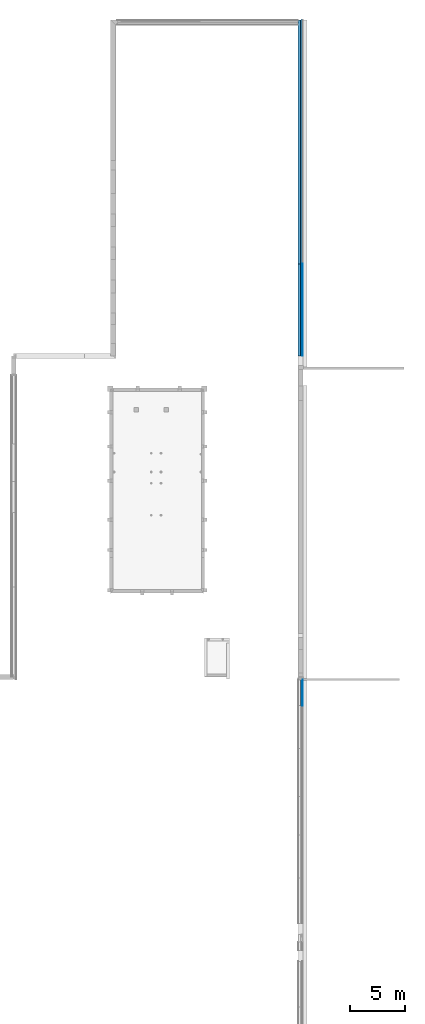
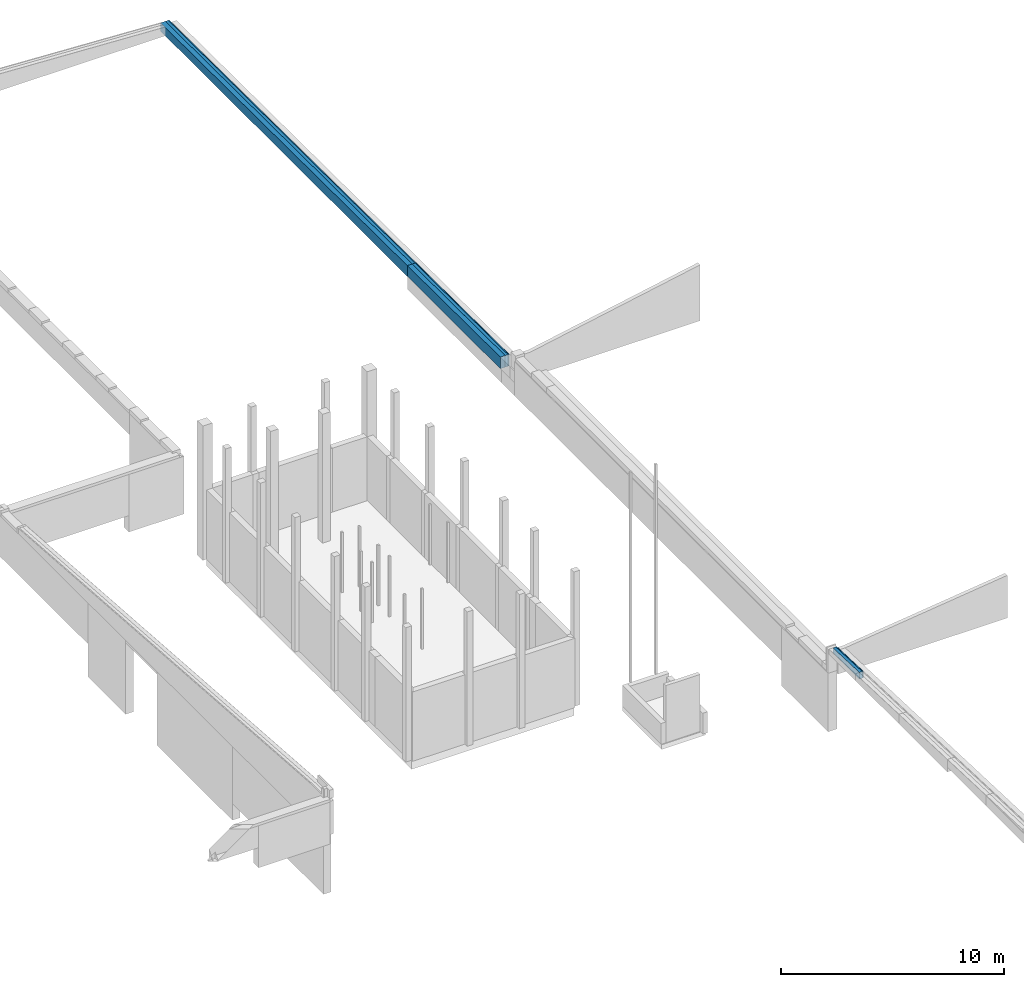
# One storey, part 15 of 17: 10 building element parts, 3 elements without a shape of their own.
"""IFC2X3 building model written with IfcOpenShell, lengths in millimetres."""

import ifcopenshell
import ifcopenshell.guid

model = None  # the IFC model being written
_history = None  # IfcOwnerHistory: only IFC2X3 demands one
_inside = {}  # id of a spatial element -> (the spatial element, [elements in it])
_under = {}  # id of a project, library or spatial element -> (it, [spatial elements below it])
_declared = {}  # id of a project -> (the project, [libraries it declares])
_typed = {}  # id of a type object -> (the type object, [elements of that type])
_made_of = {}  # id of a material, layer set ... -> (it, [elements and type objects made of it])


def new_model(schema):
    """Start an empty IFC model of exactly this schema.

    Asked for "IFC4X3", IfcOpenShell would pick the latest addendum, in which some entities
    have other attributes; the version numbers below select the first issue.
    IFC2X3 requires an IfcOwnerHistory on every rooted entity: one is made here for all.
    """
    global model, _history
    if schema == "IFC4X3":
        model = ifcopenshell.file(schema_version=(4, 3, 0, 0))
    else:
        model = ifcopenshell.file(schema=schema)
    _inside.clear()
    _under.clear()
    _declared.clear()
    _typed.clear()
    _made_of.clear()
    _history = None
    if model.schema == "IFC2X3":
        org = make("IfcOrganization", Name="unknown")
        user = make(
            "IfcPersonAndOrganization",
            ThePerson=make("IfcPerson", FamilyName="unknown"),
            TheOrganization=org,
        )
        app = make(
            "IfcApplication",
            ApplicationDeveloper=org,
            Version="unknown",
            ApplicationFullName="unknown",
            ApplicationIdentifier="unknown",
        )
        _history = make(
            "IfcOwnerHistory",
            OwningUser=user,
            OwningApplication=app,
            ChangeAction="ADDED",
            CreationDate=0,
        )
    return model


def make(cls, **values):
    """One entity of the class cls with the attributes given. An attribute that is None is left unset."""
    return model.create_entity(
        cls, **{name: value for name, value in values.items() if value is not None}
    )


def entity(cls, *values):
    """Any entity or typed value of the class cls, its attributes in the order of the schema. None: left unset."""
    e = model.create_entity(cls)
    for i, value in enumerate(values):
        if value is not None:
            e[i] = value
    return e


def rooted(cls, **values):
    """An entity with a GlobalId (a new one), such as an element, a storey or a relation."""
    return make(cls, GlobalId=ifcopenshell.guid.new(), OwnerHistory=_history, **values)


def si_unit(unit_type, name, prefix=None):
    """IfcSIUnit, for example si_unit("LENGTHUNIT", "METRE", prefix="MILLI")."""
    return make("IfcSIUnit", UnitType=unit_type, Prefix=prefix, Name=name)


def converted_unit(unit_type, name, factor, base, dimensions=None, offset=None):
    """IfcConversionBasedUnit, such as the inch: factor (a typed value) times the base unit."""
    return make(
        "IfcConversionBasedUnit"
        if offset is None
        else "IfcConversionBasedUnitWithOffset",
        ConversionOffset=offset,
        Dimensions=None
        if dimensions is None
        else entity("IfcDimensionalExponents", *dimensions),
        UnitType=unit_type,
        Name=name,
        ConversionFactor=make(
            "IfcMeasureWithUnit", ValueComponent=factor, UnitComponent=base
        ),
    )


def derived_unit(unit_type, elements):
    """IfcDerivedUnit: a product of units, each with its exponent."""
    return make(
        "IfcDerivedUnit",
        Elements=[
            make("IfcDerivedUnitElement", Unit=unit, Exponent=power)
            for unit, power in elements
        ],
        UnitType=unit_type,
    )


def money_unit(currency):
    """IfcMonetaryUnit."""
    return make("IfcMonetaryUnit", Currency=currency)


def assignment(units):
    """IfcUnitAssignment: the units of a project."""
    return None if units is None else make("IfcUnitAssignment", Units=units)


def point(xyz):
    """IfcCartesianPoint."""
    return None if xyz is None else make("IfcCartesianPoint", Coordinates=xyz)


def direction(xyz):
    """IfcDirection."""
    return None if xyz is None else make("IfcDirection", DirectionRatios=xyz)


def frame(location, z_axis=None, x_axis=None):
    """IfcAxis2Placement3D, a coordinate frame: its origin and axes. An axis left out is left unset."""
    return make(
        "IfcAxis2Placement3D",
        Location=point(location),
        Axis=direction(z_axis),
        RefDirection=direction(x_axis),
    )


def origin_with_axes():
    """The frame at (0, 0, 0) with the z axis (0, 0, 1) and the x axis (1, 0, 0) written out."""
    return frame((0.0, 0.0, 0.0), z_axis=(0.0, 0.0, 1.0), x_axis=(1.0, 0.0, 0.0))


def place(relative_to, where):
    """IfcLocalPlacement: puts the frame where relative to a parent placement (None: the world)."""
    return make(
        "IfcLocalPlacement", PlacementRelTo=relative_to, RelativePlacement=where
    )


def context(
    kind, dimensions, precision=None, world=None, true_north=None, identifier=None
):
    """IfcGeometricRepresentationContext, for example the 3D "Model" context."""
    return make(
        "IfcGeometricRepresentationContext",
        ContextIdentifier=identifier,
        ContextType=kind,
        CoordinateSpaceDimension=dimensions,
        Precision=precision,
        WorldCoordinateSystem=world,
        TrueNorth=true_north,
    )


def subcontext(parent, identifier, kind, view, scale=None):
    """IfcGeometricRepresentationSubContext, for example "Body" below "Model"."""
    return make(
        "IfcGeometricRepresentationSubContext",
        ContextIdentifier=identifier,
        ContextType=kind,
        ParentContext=parent,
        TargetScale=scale,
        TargetView=view,
    )


def project(units=None, contexts=None):
    """IfcProject with its units and contexts."""
    return rooted(
        "IfcProject",
        Name="project",
        RepresentationContexts=contexts,
        UnitsInContext=assignment(units),
    )


def spatial(cls, under=None, at=None, **own):
    """A site, building, storey or space (cls), placed at a placement, below another one or the project."""
    s = rooted(cls, ObjectPlacement=at, **own)
    if under is not None:
        _under.setdefault(under.id(), (under, []))[1].append(s)
    return s


def polyline(points):
    """IfcPolyline through the points."""
    return make("IfcPolyline", Points=[point(p) for p in points])


def outline(outer, holes=None, kind="AREA"):
    """IfcArbitraryClosedProfileDef: a profile drawn as a closed curve; with holes, ...WithVoids."""
    if holes is None:
        return make("IfcArbitraryClosedProfileDef", ProfileType=kind, OuterCurve=outer)
    return make(
        "IfcArbitraryProfileDefWithVoids",
        ProfileType=kind,
        OuterCurve=outer,
        InnerCurves=holes,
    )


def extrude(swept, where, along, depth):
    """IfcExtrudedAreaSolid: the profile swept, set in the frame where, extruded along a direction by depth."""
    return make(
        "IfcExtrudedAreaSolid",
        SweptArea=swept,
        Position=where,
        ExtrudedDirection=direction(along),
        Depth=depth,
    )


def boolean(op, a, b):
    """IfcBooleanResult of two solids."""
    return make("IfcBooleanResult", Operator=op, FirstOperand=a, SecondOperand=b)


def faces_of(points, faces, orient=None, outer=None):
    """IfcFace entities. A face is a list of loops; a loop is a list of indices into points, from 0.

    orient and outer hold one flag for each loop. By default every Orientation is true, the
    first loop of a face is its IfcFaceOuterBound and the others are IfcFaceBound.
    """
    made = []
    for i, loops in enumerate(faces):
        bounds = []
        for j, loop in enumerate(loops):
            is_outer = j == 0 if outer is None else outer[i][j]
            bounds.append(
                make(
                    "IfcFaceOuterBound" if is_outer else "IfcFaceBound",
                    Bound=make("IfcPolyLoop", Polygon=[points[k] for k in loop]),
                    Orientation=True if orient is None else orient[i][j],
                )
            )
        made.append(make("IfcFace", Bounds=bounds))
    return made


def faceted_brep(points, faces, orient=None, outer=None, voids=None):
    """IfcFacetedBrep: a solid bounded by flat faces; with voids (closed shells), ...WithVoids."""
    shared = [point(p) for p in points]
    hull = make("IfcClosedShell", CfsFaces=faces_of(shared, faces, orient, outer))
    if voids is None:
        return make("IfcFacetedBrep", Outer=hull)
    return make(
        "IfcFacetedBrepWithVoids",
        Outer=hull,
        Voids=[
            make(cls, CfsFaces=faces_of(shared, fs, o, b)) for cls, fs, o, b in voids
        ],
    )


def shape(context_of_items, identifier, shape_type, items):
    """IfcShapeRepresentation: the items that make up one representation, for example the "Body"."""
    return make(
        "IfcShapeRepresentation",
        ContextOfItems=context_of_items,
        RepresentationIdentifier=identifier,
        RepresentationType=shape_type,
        Items=items,
    )


def material(Name=None, Category=None):
    """IfcMaterial."""
    return make("IfcMaterial", Name=Name, Category=Category)


def made_of(thing, what):
    """Note that an element or type object is made of a material, layer set ...; save() writes the relation."""
    if what is not None:
        _made_of.setdefault(what.id(), (what, []))[1].append(thing)
    return thing


def type_object(cls, material=None, **own):
    """A type object (cls), such as IfcWallType, which elements share."""
    return made_of(rooted(cls, **own), material)


def element(
    cls,
    number,
    at=None,
    inside=None,
    cuts=None,
    type_object=None,
    material=None,
    context=None,
    identifier="Body",
    shape_type=None,
    held_by="IfcProductDefinitionShape",
    body=None,
    shapes=None,
    **own,
):
    """One element of the class cls, such as IfcWall. Its Tag is "e" and its number.

    at: its placement. inside: the storey or other place that contains it. cuts: it is an
    opening in that element (IfcRelVoidsElement). A single representation is given by context,
    identifier, shape_type and body (its items); several are given by shapes. held_by: the class
    of the entity that holds the representations. save() writes the other relations.
    """
    e = rooted(cls, Tag="e%d" % number, ObjectPlacement=at, **own)
    if body is not None:
        shapes = [shape(context, identifier, shape_type, body)]
    if shapes is not None:
        e.Representation = make(held_by, Representations=shapes)
    if inside is not None:
        _inside.setdefault(inside.id(), (inside, []))[1].append(e)
    if cuts is not None:
        rooted(
            "IfcRelVoidsElement", RelatingBuildingElement=cuts, RelatedOpeningElement=e
        )
    if type_object is not None:
        _typed.setdefault(type_object.id(), (type_object, []))[1].append(e)
    return made_of(e, material)


def aggregate(whole, parts):
    """IfcRelAggregates: a whole, such as a stair, and the parts it consists of."""
    return rooted("IfcRelAggregates", RelatingObject=whole, RelatedObjects=parts)


def save(model, path):
    """Write the relations noted so far, then the file.

    IfcRelAggregates (storeys below a building ...), IfcRelContainedInSpatialStructure (elements
    in a storey), IfcRelDefinesByType, IfcRelAssociatesMaterial and IfcRelDeclares: one each for
    every whole, place, type object, material and project.
    """
    for whole, parts in _under.values():
        aggregate(whole, parts)
    for where, things in _inside.values():
        rooted(
            "IfcRelContainedInSpatialStructure",
            RelatedElements=things,
            RelatingStructure=where,
        )
    for kind, things in _typed.values():
        rooted("IfcRelDefinesByType", RelatedObjects=things, RelatingType=kind)
    for what, things in _made_of.values():
        rooted("IfcRelAssociatesMaterial", RelatedObjects=things, RelatingMaterial=what)
    for by, libraries in _declared.values():
        rooted("IfcRelDeclares", RelatingContext=by, RelatedDefinitions=libraries)
    model.write(path)


model = new_model("IFC2X3")

# Units and contexts
model_context = context("Model", 3, precision=0.01, world=origin_with_axes(), true_north=direction((0.0, 1.0)))
body_context = subcontext(model_context, "Body", "Model", "MODEL_VIEW")
ifc_project = project(units=[si_unit("LENGTHUNIT", "METRE", prefix="MILLI"), si_unit("AREAUNIT", "SQUARE_METRE"), si_unit("VOLUMEUNIT", "CUBIC_METRE"), converted_unit("PLANEANGLEUNIT", "DEGREE", entity("IfcPlaneAngleMeasure", 0.0174532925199), si_unit("PLANEANGLEUNIT", "RADIAN"), dimensions=[0, 0, 0, 0, 0, 0, 0]), si_unit("SOLIDANGLEUNIT", "STERADIAN"), money_unit("EUR"), converted_unit("TIMEUNIT", "Year", entity("IfcTimeMeasure", 31556926.0), si_unit("TIMEUNIT", "SECOND"), dimensions=[0, 0, 1, 0, 0, 0, 0]), si_unit("MASSUNIT", "GRAM", prefix="KILO"), si_unit("THERMODYNAMICTEMPERATUREUNIT", "DEGREE_CELSIUS"), si_unit("LUMINOUSINTENSITYUNIT", "LUMEN"), si_unit("ENERGYUNIT", "JOULE", prefix="MEGA"), derived_unit("THERMALCONDUCTANCEUNIT", [(si_unit("POWERUNIT", "WATT"), 1), (si_unit("LENGTHUNIT", "METRE"), -1), (si_unit("THERMODYNAMICTEMPERATUREUNIT", "KELVIN"), -1)]), derived_unit("SPECIFICHEATCAPACITYUNIT", [(si_unit("ENERGYUNIT", "JOULE"), 1), (si_unit("MASSUNIT", "GRAM", prefix="KILO"), -1), (si_unit("THERMODYNAMICTEMPERATUREUNIT", "KELVIN"), -1)]), derived_unit("MASSDENSITYUNIT", [(si_unit("MASSUNIT", "GRAM", prefix="KILO"), 1), (si_unit("VOLUMEUNIT", "CUBIC_METRE"), -1)])], contexts=[model_context])

# Site, building, storey
site_placement = place(None, origin_with_axes())
site = spatial("IfcSite", under=ifc_project, at=site_placement, Name="Puškini 31, Narva", CompositionType="ELEMENT")
building_placement = place(site_placement, origin_with_axes())
building = spatial("IfcBuilding", under=site, at=building_placement, Name="Narva Riigigümnaasium", CompositionType="ELEMENT")
storey_placement = place(building_placement, frame((0.0, 0.0, -6800.0), z_axis=(0.0, 0.0, 1.0), x_axis=(1.0, 0.0, 0.0)))
storey = spatial("IfcBuildingStorey", under=building, at=storey_placement, Name="0.korrus -6.8", CompositionType="ELEMENT", Elevation=-6800.0)

# Wall, building element parts
wall_type_1 = type_object("IfcWallType", Name="G-VS-02 420", PredefinedType="NOTDEFINED")
wall_1_placement = place(storey_placement, frame((54200.000001, 194650.0, 4380.0), z_axis=(0.0, 0.0, 1.0), x_axis=(0.0, -1.0, 0.0)))
wall_1 = element("IfcWall", 1, at=wall_1_placement, inside=storey, type_object=wall_type_1, Name="Sisesein")
ifc_material_1 = material(Name="Salto-PIR soojustus")
building_element_part_1_placement = place(wall_1_placement, origin_with_axes())
building_element_part_1 = element("IfcBuildingElementPart", 2, at=building_element_part_1_placement, material=ifc_material_1, Name="Salto-PIR soojustus", context=body_context, shape_type="CSG", body=[
    boolean("DIFFERENCE", boolean("DIFFERENCE", boolean("DIFFERENCE", boolean("DIFFERENCE", boolean("DIFFERENCE", extrude(outline(polyline([(0.0, 0.0), (2364.84872856, 0.0), (2364.84872856, 150.0), (0.0, 150.0), (0.0, 0.0)])), origin_with_axes(), (0.0, 0.0, 1.0), 365.392052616), faceted_brep([(2364.84872856, -200.0, 362.347847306), (0.0, -200.0, 271.822047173), (0.0, -200.0, 365.392052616), (2364.84872856, -200.0, 365.392052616), (0.0, -210.0, 271.822047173), (2364.84872856, -210.0, 362.347847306), (0.0, -210.0, 365.392052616), (2364.84872856, -210.0, 365.392052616)], [[[0, 1, 2, 3]], [[4, 1, 0, 5]], [[1, 4, 6, 2]], [[2, 6, 7, 3]], [[5, 0, 3, 7]], [[4, 5, 7, 6]]])), faceted_brep([(2364.84872856, 0.0, 362.347847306), (0.0, 0.0, 271.822047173), (0.0, 0.0, 365.392052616), (2364.84872856, 0.0, 365.392052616), (0.0, -200.0, 271.822047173), (2364.84872856, -200.0, 362.347847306), (0.0, -200.0, 365.392052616), (2364.84872856, -200.0, 365.392052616)], [[[0, 1, 2, 3]], [[4, 1, 0, 5]], [[1, 4, 6, 2]], [[2, 6, 7, 3]], [[5, 0, 3, 7]], [[4, 5, 7, 6]]])), faceted_brep([(2364.84872856, 150.0, 362.347847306), (0.0, 150.0, 271.822047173), (0.0, 150.0, 365.392052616), (2364.84872856, 150.0, 365.392052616), (0.0, 0.0, 271.822047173), (2364.84872856, 0.0, 362.347847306), (0.0, 0.0, 365.392052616), (2364.84872856, 0.0, 365.392052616)], [[[0, 1, 2, 3]], [[4, 1, 0, 5]], [[1, 4, 6, 2]], [[2, 6, 7, 3]], [[5, 0, 3, 7]], [[4, 5, 7, 6]]])), faceted_brep([(2364.84872856, 200.0, 362.347847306), (0.0, 200.0, 271.822047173), (0.0, 200.0, 365.392052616), (2364.84872856, 200.0, 365.392052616), (0.0, 150.0, 271.822047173), (2364.84872856, 150.0, 362.347847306), (0.0, 150.0, 365.392052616), (2364.84872856, 150.0, 365.392052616)], [[[0, 1, 2, 3]], [[4, 1, 0, 5]], [[1, 4, 6, 2]], [[2, 6, 7, 3]], [[5, 0, 3, 7]], [[4, 5, 7, 6]]])), faceted_brep([(2364.84872856, 210.0, 362.347847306), (0.0, 210.0, 271.822047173), (0.0, 210.0, 365.392052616), (2364.84872856, 210.0, 365.392052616), (0.0, 200.0, 271.822047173), (2364.84872856, 200.0, 362.347847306), (0.0, 200.0, 365.392052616), (2364.84872856, 200.0, 365.392052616)], [[[0, 1, 2, 3]], [[4, 1, 0, 5]], [[1, 4, 6, 2]], [[2, 6, 7, 3]], [[5, 0, 3, 7]], [[4, 5, 7, 6]]])),
])
building_element_part_2_placement = place(wall_1_placement, origin_with_axes())
building_element_part_2 = element("IfcBuildingElementPart", 3, at=building_element_part_2_placement, material=ifc_material_1, Name="Salto-PIR soojustus", context=body_context, shape_type="CSG", body=[
    boolean("DIFFERENCE", boolean("DIFFERENCE", boolean("DIFFERENCE", boolean("DIFFERENCE", boolean("DIFFERENCE", extrude(outline(polyline([(0.0, 150.0), (2364.84872856, 150.0), (2364.84872856, 200.0), (0.0, 200.0), (0.0, 150.0)])), origin_with_axes(), (0.0, 0.0, 1.0), 365.392052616), faceted_brep([(2364.84872856, -200.0, 362.347847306), (0.0, -200.0, 271.822047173), (0.0, -200.0, 365.392052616), (2364.84872856, -200.0, 365.392052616), (0.0, -210.0, 271.822047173), (2364.84872856, -210.0, 362.347847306), (0.0, -210.0, 365.392052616), (2364.84872856, -210.0, 365.392052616)], [[[0, 1, 2, 3]], [[4, 1, 0, 5]], [[1, 4, 6, 2]], [[2, 6, 7, 3]], [[5, 0, 3, 7]], [[4, 5, 7, 6]]])), faceted_brep([(2364.84872856, 0.0, 362.347847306), (0.0, 0.0, 271.822047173), (0.0, 0.0, 365.392052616), (2364.84872856, 0.0, 365.392052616), (0.0, -200.0, 271.822047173), (2364.84872856, -200.0, 362.347847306), (0.0, -200.0, 365.392052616), (2364.84872856, -200.0, 365.392052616)], [[[0, 1, 2, 3]], [[4, 1, 0, 5]], [[1, 4, 6, 2]], [[2, 6, 7, 3]], [[5, 0, 3, 7]], [[4, 5, 7, 6]]])), faceted_brep([(2364.84872856, 150.0, 362.347847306), (0.0, 150.0, 271.822047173), (0.0, 150.0, 365.392052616), (2364.84872856, 150.0, 365.392052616), (0.0, 0.0, 271.822047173), (2364.84872856, 0.0, 362.347847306), (0.0, 0.0, 365.392052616), (2364.84872856, 0.0, 365.392052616)], [[[0, 1, 2, 3]], [[4, 1, 0, 5]], [[1, 4, 6, 2]], [[2, 6, 7, 3]], [[5, 0, 3, 7]], [[4, 5, 7, 6]]])), faceted_brep([(2364.84872856, 200.0, 362.347847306), (0.0, 200.0, 271.822047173), (0.0, 200.0, 365.392052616), (2364.84872856, 200.0, 365.392052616), (0.0, 150.0, 271.822047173), (2364.84872856, 150.0, 362.347847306), (0.0, 150.0, 365.392052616), (2364.84872856, 150.0, 365.392052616)], [[[0, 1, 2, 3]], [[4, 1, 0, 5]], [[1, 4, 6, 2]], [[2, 6, 7, 3]], [[5, 0, 3, 7]], [[4, 5, 7, 6]]])), faceted_brep([(2364.84872856, 210.0, 362.347847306), (0.0, 210.0, 271.822047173), (0.0, 210.0, 365.392052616), (2364.84872856, 210.0, 365.392052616), (0.0, 200.0, 271.822047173), (2364.84872856, 200.0, 362.347847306), (0.0, 200.0, 365.392052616), (2364.84872856, 200.0, 365.392052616)], [[[0, 1, 2, 3]], [[4, 1, 0, 5]], [[1, 4, 6, 2]], [[2, 6, 7, 3]], [[5, 0, 3, 7]], [[4, 5, 7, 6]]])),
])
ifc_material_2 = material(Name="Krohv")
building_element_part_3_placement = place(wall_1_placement, origin_with_axes())
building_element_part_3 = element("IfcBuildingElementPart", 4, at=building_element_part_3_placement, material=ifc_material_2, Name="Krohv", context=body_context, shape_type="CSG", body=[
    boolean("DIFFERENCE", boolean("DIFFERENCE", boolean("DIFFERENCE", boolean("DIFFERENCE", boolean("DIFFERENCE", extrude(outline(polyline([(0.0, 200.0), (2364.84872856, 200.0), (2364.84872856, 210.0), (0.0, 210.0), (0.0, 200.0)])), origin_with_axes(), (0.0, 0.0, 1.0), 365.392052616), faceted_brep([(2364.84872856, -200.0, 362.347847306), (0.0, -200.0, 271.822047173), (0.0, -200.0, 365.392052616), (2364.84872856, -200.0, 365.392052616), (0.0, -210.0, 271.822047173), (2364.84872856, -210.0, 362.347847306), (0.0, -210.0, 365.392052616), (2364.84872856, -210.0, 365.392052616)], [[[0, 1, 2, 3]], [[4, 1, 0, 5]], [[1, 4, 6, 2]], [[2, 6, 7, 3]], [[5, 0, 3, 7]], [[4, 5, 7, 6]]])), faceted_brep([(2364.84872856, 0.0, 362.347847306), (0.0, 0.0, 271.822047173), (0.0, 0.0, 365.392052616), (2364.84872856, 0.0, 365.392052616), (0.0, -200.0, 271.822047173), (2364.84872856, -200.0, 362.347847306), (0.0, -200.0, 365.392052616), (2364.84872856, -200.0, 365.392052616)], [[[0, 1, 2, 3]], [[4, 1, 0, 5]], [[1, 4, 6, 2]], [[2, 6, 7, 3]], [[5, 0, 3, 7]], [[4, 5, 7, 6]]])), faceted_brep([(2364.84872856, 150.0, 362.347847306), (0.0, 150.0, 271.822047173), (0.0, 150.0, 365.392052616), (2364.84872856, 150.0, 365.392052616), (0.0, 0.0, 271.822047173), (2364.84872856, 0.0, 362.347847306), (0.0, 0.0, 365.392052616), (2364.84872856, 0.0, 365.392052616)], [[[0, 1, 2, 3]], [[4, 1, 0, 5]], [[1, 4, 6, 2]], [[2, 6, 7, 3]], [[5, 0, 3, 7]], [[4, 5, 7, 6]]])), faceted_brep([(2364.84872856, 200.0, 362.347847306), (0.0, 200.0, 271.822047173), (0.0, 200.0, 365.392052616), (2364.84872856, 200.0, 365.392052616), (0.0, 150.0, 271.822047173), (2364.84872856, 150.0, 362.347847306), (0.0, 150.0, 365.392052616), (2364.84872856, 150.0, 365.392052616)], [[[0, 1, 2, 3]], [[4, 1, 0, 5]], [[1, 4, 6, 2]], [[2, 6, 7, 3]], [[5, 0, 3, 7]], [[4, 5, 7, 6]]])), faceted_brep([(2364.84872856, 210.0, 362.347847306), (0.0, 210.0, 271.822047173), (0.0, 210.0, 365.392052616), (2364.84872856, 210.0, 365.392052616), (0.0, 200.0, 271.822047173), (2364.84872856, 200.0, 362.347847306), (0.0, 200.0, 365.392052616), (2364.84872856, 200.0, 365.392052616)], [[[0, 1, 2, 3]], [[4, 1, 0, 5]], [[1, 4, 6, 2]], [[2, 6, 7, 3]], [[5, 0, 3, 7]], [[4, 5, 7, 6]]])),
])
aggregate(wall_1, [building_element_part_1, building_element_part_2, building_element_part_3])

wall_type_2 = type_object("IfcWallType", Name="G-VS-05 460", PredefinedType="NOTDEFINED")
wall_2_placement = place(storey_placement, frame((54200.0000018, 224005.149008, 2200.0), z_axis=(0.0, 0.0, 1.0), x_axis=(0.0, 1.0, 0.0)))
wall_2 = element("IfcWall", 5, at=wall_2_placement, inside=storey, type_object=wall_type_2, Name="Sisesein")
ifc_material_3 = material(Name="Betoon_1")
building_element_part_4_placement = place(wall_2_placement, origin_with_axes())
building_element_part_4 = element("IfcBuildingElementPart", 6, at=building_element_part_4_placement, material=ifc_material_3, Name="Betoon_1", context=body_context, shape_type="CSG", body=[
    boolean("DIFFERENCE", boolean("DIFFERENCE", boolean("DIFFERENCE", boolean("DIFFERENCE", extrude(outline(polyline([(0.0, 0.0), (8338.23848761, 0.0), (8338.23848761, 250.0), (0.0, 250.0), (0.0, 0.0)])), origin_with_axes(), (0.0, 0.0, 1.0), 1436.93976611), faceted_brep([(0.0, 0.0, 636.06778575), (8338.23848761, 0.0, 585.215957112), (8338.23848761, 0.0, 1436.93976611), (0.0, 0.0, 1436.93976611), (8338.23848761, 250.0, 585.215957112), (0.0, 250.0, 636.06778575), (8338.23848761, 250.0, 1436.93976611), (0.0, 250.0, 1436.93976611)], [[[0, 1, 2, 3]], [[4, 1, 0, 5]], [[1, 4, 6, 2]], [[7, 3, 2, 6]], [[5, 0, 3, 7]], [[4, 5, 7, 6]]])), faceted_brep([(0.0, -150.0, 636.06778575), (8338.23848761, -150.0, 585.215957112), (8338.23848761, -150.0, 1436.93976611), (0.0, -150.0, 1436.93976611), (8338.23848761, 0.0, 585.215957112), (0.0, 0.0, 636.06778575), (8338.23848761, 0.0, 1436.93976611), (0.0, 0.0, 1436.93976611)], [[[0, 1, 2, 3]], [[4, 1, 0, 5]], [[1, 4, 6, 2]], [[7, 3, 2, 6]], [[5, 0, 3, 7]], [[4, 5, 7, 6]]])), faceted_brep([(0.0, -200.0, 636.06778575), (8338.23848761, -200.0, 585.215957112), (8338.23848761, -200.0, 1436.93976611), (0.0, -200.0, 1436.93976611), (8338.23848761, -150.0, 585.215957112), (0.0, -150.0, 636.06778575), (8338.23848761, -150.0, 1436.93976611), (0.0, -150.0, 1436.93976611)], [[[0, 1, 2, 3]], [[4, 1, 0, 5]], [[1, 4, 6, 2]], [[7, 3, 2, 6]], [[5, 0, 3, 7]], [[4, 5, 7, 6]]])), faceted_brep([(0.0, -210.0, 636.06778575), (8338.23848761, -210.0, 585.215957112), (8338.23848761, -210.0, 1436.93976611), (0.0, -210.0, 1436.93976611), (8338.23848761, -200.0, 585.215957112), (0.0, -200.0, 636.06778575), (8338.23848761, -200.0, 1436.93976611), (0.0, -200.0, 1436.93976611)], [[[0, 1, 2, 3]], [[4, 1, 0, 5]], [[1, 4, 6, 2]], [[7, 3, 2, 6]], [[5, 0, 3, 7]], [[4, 5, 7, 6]]])),
])
building_element_part_5_placement = place(wall_2_placement, origin_with_axes())
building_element_part_5 = element("IfcBuildingElementPart", 7, at=building_element_part_5_placement, material=ifc_material_1, Name="Salto-PIR soojustus", context=body_context, shape_type="CSG", body=[
    boolean("DIFFERENCE", boolean("DIFFERENCE", boolean("DIFFERENCE", boolean("DIFFERENCE", extrude(outline(polyline([(0.0, -150.0), (8338.23848761, -150.0), (8338.23848761, 0.0), (0.0, 0.0), (0.0, -150.0)])), origin_with_axes(), (0.0, 0.0, 1.0), 1436.93976611), faceted_brep([(0.0, 0.0, 636.06778575), (8338.23848761, 0.0, 585.215957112), (8338.23848761, 0.0, 1436.93976611), (0.0, 0.0, 1436.93976611), (8338.23848761, 250.0, 585.215957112), (0.0, 250.0, 636.06778575), (8338.23848761, 250.0, 1436.93976611), (0.0, 250.0, 1436.93976611)], [[[0, 1, 2, 3]], [[4, 1, 0, 5]], [[1, 4, 6, 2]], [[7, 3, 2, 6]], [[5, 0, 3, 7]], [[4, 5, 7, 6]]])), faceted_brep([(0.0, -150.0, 636.06778575), (8338.23848761, -150.0, 585.215957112), (8338.23848761, -150.0, 1436.93976611), (0.0, -150.0, 1436.93976611), (8338.23848761, 0.0, 585.215957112), (0.0, 0.0, 636.06778575), (8338.23848761, 0.0, 1436.93976611), (0.0, 0.0, 1436.93976611)], [[[0, 1, 2, 3]], [[4, 1, 0, 5]], [[1, 4, 6, 2]], [[7, 3, 2, 6]], [[5, 0, 3, 7]], [[4, 5, 7, 6]]])), faceted_brep([(0.0, -200.0, 636.06778575), (8338.23848761, -200.0, 585.215957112), (8338.23848761, -200.0, 1436.93976611), (0.0, -200.0, 1436.93976611), (8338.23848761, -150.0, 585.215957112), (0.0, -150.0, 636.06778575), (8338.23848761, -150.0, 1436.93976611), (0.0, -150.0, 1436.93976611)], [[[0, 1, 2, 3]], [[4, 1, 0, 5]], [[1, 4, 6, 2]], [[7, 3, 2, 6]], [[5, 0, 3, 7]], [[4, 5, 7, 6]]])), faceted_brep([(0.0, -210.0, 636.06778575), (8338.23848761, -210.0, 585.215957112), (8338.23848761, -210.0, 1436.93976611), (0.0, -210.0, 1436.93976611), (8338.23848761, -200.0, 585.215957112), (0.0, -200.0, 636.06778575), (8338.23848761, -200.0, 1436.93976611), (0.0, -200.0, 1436.93976611)], [[[0, 1, 2, 3]], [[4, 1, 0, 5]], [[1, 4, 6, 2]], [[7, 3, 2, 6]], [[5, 0, 3, 7]], [[4, 5, 7, 6]]])),
])
building_element_part_6_placement = place(wall_2_placement, origin_with_axes())
building_element_part_6 = element("IfcBuildingElementPart", 8, at=building_element_part_6_placement, material=ifc_material_1, Name="Salto-PIR soojustus", context=body_context, shape_type="CSG", body=[
    boolean("DIFFERENCE", boolean("DIFFERENCE", boolean("DIFFERENCE", boolean("DIFFERENCE", extrude(outline(polyline([(0.0, -200.0), (8338.23848761, -200.0), (8338.23848761, -150.0), (0.0, -150.0), (0.0, -200.0)])), origin_with_axes(), (0.0, 0.0, 1.0), 1436.93976611), faceted_brep([(0.0, 0.0, 636.06778575), (8338.23848761, 0.0, 585.215957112), (8338.23848761, 0.0, 1436.93976611), (0.0, 0.0, 1436.93976611), (8338.23848761, 250.0, 585.215957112), (0.0, 250.0, 636.06778575), (8338.23848761, 250.0, 1436.93976611), (0.0, 250.0, 1436.93976611)], [[[0, 1, 2, 3]], [[4, 1, 0, 5]], [[1, 4, 6, 2]], [[7, 3, 2, 6]], [[5, 0, 3, 7]], [[4, 5, 7, 6]]])), faceted_brep([(0.0, -150.0, 636.06778575), (8338.23848761, -150.0, 585.215957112), (8338.23848761, -150.0, 1436.93976611), (0.0, -150.0, 1436.93976611), (8338.23848761, 0.0, 585.215957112), (0.0, 0.0, 636.06778575), (8338.23848761, 0.0, 1436.93976611), (0.0, 0.0, 1436.93976611)], [[[0, 1, 2, 3]], [[4, 1, 0, 5]], [[1, 4, 6, 2]], [[7, 3, 2, 6]], [[5, 0, 3, 7]], [[4, 5, 7, 6]]])), faceted_brep([(0.0, -200.0, 636.06778575), (8338.23848761, -200.0, 585.215957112), (8338.23848761, -200.0, 1436.93976611), (0.0, -200.0, 1436.93976611), (8338.23848761, -150.0, 585.215957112), (0.0, -150.0, 636.06778575), (8338.23848761, -150.0, 1436.93976611), (0.0, -150.0, 1436.93976611)], [[[0, 1, 2, 3]], [[4, 1, 0, 5]], [[1, 4, 6, 2]], [[7, 3, 2, 6]], [[5, 0, 3, 7]], [[4, 5, 7, 6]]])), faceted_brep([(0.0, -210.0, 636.06778575), (8338.23848761, -210.0, 585.215957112), (8338.23848761, -210.0, 1436.93976611), (0.0, -210.0, 1436.93976611), (8338.23848761, -200.0, 585.215957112), (0.0, -200.0, 636.06778575), (8338.23848761, -200.0, 1436.93976611), (0.0, -200.0, 1436.93976611)], [[[0, 1, 2, 3]], [[4, 1, 0, 5]], [[1, 4, 6, 2]], [[7, 3, 2, 6]], [[5, 0, 3, 7]], [[4, 5, 7, 6]]])),
])
building_element_part_7_placement = place(wall_2_placement, origin_with_axes())
building_element_part_7 = element("IfcBuildingElementPart", 9, at=building_element_part_7_placement, material=ifc_material_2, Name="Krohv", context=body_context, shape_type="CSG", body=[
    boolean("DIFFERENCE", boolean("DIFFERENCE", boolean("DIFFERENCE", boolean("DIFFERENCE", extrude(outline(polyline([(0.0, -210.0), (8338.23848761, -210.0), (8338.23848761, -200.0), (0.0, -200.0), (0.0, -210.0)])), origin_with_axes(), (0.0, 0.0, 1.0), 1436.93976611), faceted_brep([(0.0, 0.0, 636.06778575), (8338.23848761, 0.0, 585.215957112), (8338.23848761, 0.0, 1436.93976611), (0.0, 0.0, 1436.93976611), (8338.23848761, 250.0, 585.215957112), (0.0, 250.0, 636.06778575), (8338.23848761, 250.0, 1436.93976611), (0.0, 250.0, 1436.93976611)], [[[0, 1, 2, 3]], [[4, 1, 0, 5]], [[1, 4, 6, 2]], [[7, 3, 2, 6]], [[5, 0, 3, 7]], [[4, 5, 7, 6]]])), faceted_brep([(0.0, -150.0, 636.06778575), (8338.23848761, -150.0, 585.215957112), (8338.23848761, -150.0, 1436.93976611), (0.0, -150.0, 1436.93976611), (8338.23848761, 0.0, 585.215957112), (0.0, 0.0, 636.06778575), (8338.23848761, 0.0, 1436.93976611), (0.0, 0.0, 1436.93976611)], [[[0, 1, 2, 3]], [[4, 1, 0, 5]], [[1, 4, 6, 2]], [[7, 3, 2, 6]], [[5, 0, 3, 7]], [[4, 5, 7, 6]]])), faceted_brep([(0.0, -200.0, 636.06778575), (8338.23848761, -200.0, 585.215957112), (8338.23848761, -200.0, 1436.93976611), (0.0, -200.0, 1436.93976611), (8338.23848761, -150.0, 585.215957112), (0.0, -150.0, 636.06778575), (8338.23848761, -150.0, 1436.93976611), (0.0, -150.0, 1436.93976611)], [[[0, 1, 2, 3]], [[4, 1, 0, 5]], [[1, 4, 6, 2]], [[7, 3, 2, 6]], [[5, 0, 3, 7]], [[4, 5, 7, 6]]])), faceted_brep([(0.0, -210.0, 636.06778575), (8338.23848761, -210.0, 585.215957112), (8338.23848761, -210.0, 1436.93976611), (0.0, -210.0, 1436.93976611), (8338.23848761, -200.0, 585.215957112), (0.0, -200.0, 636.06778575), (8338.23848761, -200.0, 1436.93976611), (0.0, -200.0, 1436.93976611)], [[[0, 1, 2, 3]], [[4, 1, 0, 5]], [[1, 4, 6, 2]], [[7, 3, 2, 6]], [[5, 0, 3, 7]], [[4, 5, 7, 6]]])),
])
aggregate(wall_2, [building_element_part_4, building_element_part_5, building_element_part_6, building_element_part_7])

wall_3_placement = place(storey_placement, frame((54200.0000018, 232343.933081, 2200.0), z_axis=(0.0, 0.0, 1.0), x_axis=(0.0, 1.0, 0.0)))
wall_3 = element("IfcWall", 10, at=wall_3_placement, inside=storey, type_object=wall_type_2, Name="Sisesein")
building_element_part_8_placement = place(wall_3_placement, origin_with_axes())
building_element_part_8 = element("IfcBuildingElementPart", 11, at=building_element_part_8_placement, material=ifc_material_3, Name="Betoon_1", context=body_context, shape_type="CSG", body=[
    boolean("DIFFERENCE", boolean("DIFFERENCE", boolean("DIFFERENCE", boolean("DIFFERENCE", extrude(outline(polyline([(0.0, 0.0), (22096.066919, 0.0), (22096.066919, 250.0), (0.0, 250.0), (0.0, 0.0)])), origin_with_axes(), (0.0, 0.0, 1.0), 1436.93976611), faceted_brep([(21886.066919, -6.09822592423e-06, 450.66228081), (22062.3904477, -6.09822592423e-06, 450.66228081), (22096.066919, -6.09544770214e-06, 450.456900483), (22096.066919, 0.0, 1436.93976611), (0.0, 0.0, 1436.93976611), (0.0, 0.0, 585.21262979), (21886.066919, -6.09222894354e-06, 451.737612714), (21886.066919, 250.000004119, 450.66228081), (22062.3904477, 250.000004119, 450.66228081), (22096.066919, 250.000004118, 450.456900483), (22096.066919, 250.0, 1436.93976611), (0.0, 250.0, 1436.93976611), (0.0, 250.0, 585.21262979), (21886.066919, 250.000004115, 451.737612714)], [[[0, 1, 2, 3, 4, 5, 6]], [[7, 8, 1, 0]], [[9, 2, 1, 8]], [[2, 9, 10, 3]], [[11, 4, 3, 10]], [[12, 5, 4, 11]], [[6, 5, 12, 13]], [[13, 7, 0, 6]], [[13, 12, 11, 10, 9, 8, 7]]])), faceted_brep([(21886.066919, -150.0, 450.66228081), (22062.3904477, -150.0, 450.66228081), (22096.066919, -150.0, 450.456900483), (22096.066919, -150.0, 1436.93976611), (0.0, -150.0, 1436.93976611), (0.0, -150.0, 585.21262979), (21886.066919, -150.0, 451.737612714), (21886.066919, -6.09822592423e-06, 450.66228081), (22062.3904477, -6.09822592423e-06, 450.66228081), (22096.066919, -6.09544770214e-06, 450.456900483), (22096.066919, 0.0, 1436.93976611), (0.0, 0.0, 1436.93976611), (0.0, 0.0, 585.21262979), (21886.066919, -6.09222894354e-06, 451.737612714)], [[[0, 1, 2, 3, 4, 5, 6]], [[1, 0, 7, 8]], [[9, 2, 1, 8]], [[2, 9, 10, 3]], [[11, 4, 3, 10]], [[12, 5, 4, 11]], [[6, 5, 12, 13]], [[0, 6, 13, 7]], [[13, 12, 11, 10, 9, 8, 7]]])), faceted_brep([(21886.066919, -199.999999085, 450.66228081), (22062.3904477, -199.999999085, 450.66228081), (22096.066919, -199.999999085, 450.456900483), (22096.066919, -200.0, 1436.93976611), (0.0, -200.0, 1436.93976611), (0.0, -200.0, 585.21262979), (21886.066919, -199.999999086, 451.737612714), (21886.066919, -150.0, 450.66228081), (22062.3904477, -150.0, 450.66228081), (22096.066919, -150.0, 450.456900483), (22096.066919, -150.0, 1436.93976611), (0.0, -150.0, 1436.93976611), (0.0, -150.0, 585.21262979), (21886.066919, -150.0, 451.737612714)], [[[0, 1, 2, 3, 4, 5, 6]], [[7, 8, 1, 0]], [[9, 2, 1, 8]], [[2, 9, 10, 3]], [[11, 4, 3, 10]], [[12, 5, 4, 11]], [[6, 5, 12, 13]], [[13, 7, 0, 6]], [[13, 12, 11, 10, 9, 8, 7]]])), faceted_brep([(21886.066919, -210.0, 450.66228081), (22062.3904477, -210.0, 450.66228081), (22096.066919, -210.0, 450.456900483), (22096.066919, -210.0, 1436.93976611), (0.0, -210.0, 1436.93976611), (0.0, -210.0, 585.21262979), (21886.066919, -210.0, 451.737612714), (21886.066919, -199.999999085, 450.66228081), (22062.3904477, -199.999999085, 450.66228081), (22096.066919, -199.999999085, 450.456900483), (22096.066919, -200.0, 1436.93976611), (0.0, -200.0, 1436.93976611), (0.0, -200.0, 585.21262979), (21886.066919, -199.999999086, 451.737612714)], [[[0, 1, 2, 3, 4, 5, 6]], [[1, 0, 7, 8]], [[9, 2, 1, 8]], [[2, 9, 10, 3]], [[11, 4, 3, 10]], [[12, 5, 4, 11]], [[6, 5, 12, 13]], [[0, 6, 13, 7]], [[13, 12, 11, 10, 9, 8, 7]]])),
])
building_element_part_9_placement = place(wall_3_placement, origin_with_axes())
building_element_part_9 = element("IfcBuildingElementPart", 12, at=building_element_part_9_placement, material=ifc_material_1, Name="Salto-PIR soojustus", context=body_context, shape_type="CSG", body=[
    boolean("DIFFERENCE", boolean("DIFFERENCE", boolean("DIFFERENCE", boolean("DIFFERENCE", extrude(outline(polyline([(0.0, -150.0), (22096.066919, -150.0), (22096.066919, 0.0), (0.0, 0.0), (0.0, -150.0)])), origin_with_axes(), (0.0, 0.0, 1.0), 1436.93976611), faceted_brep([(21886.066919, -6.09822592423e-06, 450.66228081), (22062.3904477, -6.09822592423e-06, 450.66228081), (22096.066919, -6.09544770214e-06, 450.456900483), (22096.066919, 0.0, 1436.93976611), (0.0, 0.0, 1436.93976611), (0.0, 0.0, 585.21262979), (21886.066919, -6.09222894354e-06, 451.737612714), (21886.066919, 250.000004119, 450.66228081), (22062.3904477, 250.000004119, 450.66228081), (22096.066919, 250.000004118, 450.456900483), (22096.066919, 250.0, 1436.93976611), (0.0, 250.0, 1436.93976611), (0.0, 250.0, 585.21262979), (21886.066919, 250.000004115, 451.737612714)], [[[0, 1, 2, 3, 4, 5, 6]], [[7, 8, 1, 0]], [[9, 2, 1, 8]], [[2, 9, 10, 3]], [[11, 4, 3, 10]], [[12, 5, 4, 11]], [[6, 5, 12, 13]], [[13, 7, 0, 6]], [[13, 12, 11, 10, 9, 8, 7]]])), faceted_brep([(21886.066919, -150.0, 450.66228081), (22062.3904477, -150.0, 450.66228081), (22096.066919, -150.0, 450.456900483), (22096.066919, -150.0, 1436.93976611), (0.0, -150.0, 1436.93976611), (0.0, -150.0, 585.21262979), (21886.066919, -150.0, 451.737612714), (21886.066919, -6.09822592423e-06, 450.66228081), (22062.3904477, -6.09822592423e-06, 450.66228081), (22096.066919, -6.09544770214e-06, 450.456900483), (22096.066919, 0.0, 1436.93976611), (0.0, 0.0, 1436.93976611), (0.0, 0.0, 585.21262979), (21886.066919, -6.09222894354e-06, 451.737612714)], [[[0, 1, 2, 3, 4, 5, 6]], [[1, 0, 7, 8]], [[9, 2, 1, 8]], [[2, 9, 10, 3]], [[11, 4, 3, 10]], [[12, 5, 4, 11]], [[6, 5, 12, 13]], [[0, 6, 13, 7]], [[13, 12, 11, 10, 9, 8, 7]]])), faceted_brep([(21886.066919, -199.999999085, 450.66228081), (22062.3904477, -199.999999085, 450.66228081), (22096.066919, -199.999999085, 450.456900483), (22096.066919, -200.0, 1436.93976611), (0.0, -200.0, 1436.93976611), (0.0, -200.0, 585.21262979), (21886.066919, -199.999999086, 451.737612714), (21886.066919, -150.0, 450.66228081), (22062.3904477, -150.0, 450.66228081), (22096.066919, -150.0, 450.456900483), (22096.066919, -150.0, 1436.93976611), (0.0, -150.0, 1436.93976611), (0.0, -150.0, 585.21262979), (21886.066919, -150.0, 451.737612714)], [[[0, 1, 2, 3, 4, 5, 6]], [[7, 8, 1, 0]], [[9, 2, 1, 8]], [[2, 9, 10, 3]], [[11, 4, 3, 10]], [[12, 5, 4, 11]], [[6, 5, 12, 13]], [[13, 7, 0, 6]], [[13, 12, 11, 10, 9, 8, 7]]])), faceted_brep([(21886.066919, -210.0, 450.66228081), (22062.3904477, -210.0, 450.66228081), (22096.066919, -210.0, 450.456900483), (22096.066919, -210.0, 1436.93976611), (0.0, -210.0, 1436.93976611), (0.0, -210.0, 585.21262979), (21886.066919, -210.0, 451.737612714), (21886.066919, -199.999999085, 450.66228081), (22062.3904477, -199.999999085, 450.66228081), (22096.066919, -199.999999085, 450.456900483), (22096.066919, -200.0, 1436.93976611), (0.0, -200.0, 1436.93976611), (0.0, -200.0, 585.21262979), (21886.066919, -199.999999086, 451.737612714)], [[[0, 1, 2, 3, 4, 5, 6]], [[1, 0, 7, 8]], [[9, 2, 1, 8]], [[2, 9, 10, 3]], [[11, 4, 3, 10]], [[12, 5, 4, 11]], [[6, 5, 12, 13]], [[0, 6, 13, 7]], [[13, 12, 11, 10, 9, 8, 7]]])),
])
building_element_part_10_placement = place(wall_3_placement, origin_with_axes())
building_element_part_10 = element("IfcBuildingElementPart", 13, at=building_element_part_10_placement, material=ifc_material_1, Name="Salto-PIR soojustus", context=body_context, shape_type="CSG", body=[
    boolean("DIFFERENCE", boolean("DIFFERENCE", boolean("DIFFERENCE", boolean("DIFFERENCE", extrude(outline(polyline([(0.0, -200.0), (22096.066919, -200.0), (22096.066919, -150.0), (0.0, -150.0), (0.0, -200.0)])), origin_with_axes(), (0.0, 0.0, 1.0), 1436.93976611), faceted_brep([(21886.066919, -6.09822592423e-06, 450.66228081), (22062.3904477, -6.09822592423e-06, 450.66228081), (22096.066919, -6.09544770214e-06, 450.456900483), (22096.066919, 0.0, 1436.93976611), (0.0, 0.0, 1436.93976611), (0.0, 0.0, 585.21262979), (21886.066919, -6.09222894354e-06, 451.737612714), (21886.066919, 250.000004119, 450.66228081), (22062.3904477, 250.000004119, 450.66228081), (22096.066919, 250.000004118, 450.456900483), (22096.066919, 250.0, 1436.93976611), (0.0, 250.0, 1436.93976611), (0.0, 250.0, 585.21262979), (21886.066919, 250.000004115, 451.737612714)], [[[0, 1, 2, 3, 4, 5, 6]], [[7, 8, 1, 0]], [[9, 2, 1, 8]], [[2, 9, 10, 3]], [[11, 4, 3, 10]], [[12, 5, 4, 11]], [[6, 5, 12, 13]], [[13, 7, 0, 6]], [[13, 12, 11, 10, 9, 8, 7]]])), faceted_brep([(21886.066919, -150.0, 450.66228081), (22062.3904477, -150.0, 450.66228081), (22096.066919, -150.0, 450.456900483), (22096.066919, -150.0, 1436.93976611), (0.0, -150.0, 1436.93976611), (0.0, -150.0, 585.21262979), (21886.066919, -150.0, 451.737612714), (21886.066919, -6.09822592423e-06, 450.66228081), (22062.3904477, -6.09822592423e-06, 450.66228081), (22096.066919, -6.09544770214e-06, 450.456900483), (22096.066919, 0.0, 1436.93976611), (0.0, 0.0, 1436.93976611), (0.0, 0.0, 585.21262979), (21886.066919, -6.09222894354e-06, 451.737612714)], [[[0, 1, 2, 3, 4, 5, 6]], [[1, 0, 7, 8]], [[9, 2, 1, 8]], [[2, 9, 10, 3]], [[11, 4, 3, 10]], [[12, 5, 4, 11]], [[6, 5, 12, 13]], [[0, 6, 13, 7]], [[13, 12, 11, 10, 9, 8, 7]]])), faceted_brep([(21886.066919, -199.999999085, 450.66228081), (22062.3904477, -199.999999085, 450.66228081), (22096.066919, -199.999999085, 450.456900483), (22096.066919, -200.0, 1436.93976611), (0.0, -200.0, 1436.93976611), (0.0, -200.0, 585.21262979), (21886.066919, -199.999999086, 451.737612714), (21886.066919, -150.0, 450.66228081), (22062.3904477, -150.0, 450.66228081), (22096.066919, -150.0, 450.456900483), (22096.066919, -150.0, 1436.93976611), (0.0, -150.0, 1436.93976611), (0.0, -150.0, 585.21262979), (21886.066919, -150.0, 451.737612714)], [[[0, 1, 2, 3, 4, 5, 6]], [[7, 8, 1, 0]], [[9, 2, 1, 8]], [[2, 9, 10, 3]], [[11, 4, 3, 10]], [[12, 5, 4, 11]], [[6, 5, 12, 13]], [[13, 7, 0, 6]], [[13, 12, 11, 10, 9, 8, 7]]])), faceted_brep([(21886.066919, -210.0, 450.66228081), (22062.3904477, -210.0, 450.66228081), (22096.066919, -210.0, 450.456900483), (22096.066919, -210.0, 1436.93976611), (0.0, -210.0, 1436.93976611), (0.0, -210.0, 585.21262979), (21886.066919, -210.0, 451.737612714), (21886.066919, -199.999999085, 450.66228081), (22062.3904477, -199.999999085, 450.66228081), (22096.066919, -199.999999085, 450.456900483), (22096.066919, -200.0, 1436.93976611), (0.0, -200.0, 1436.93976611), (0.0, -200.0, 585.21262979), (21886.066919, -199.999999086, 451.737612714)], [[[0, 1, 2, 3, 4, 5, 6]], [[1, 0, 7, 8]], [[9, 2, 1, 8]], [[2, 9, 10, 3]], [[11, 4, 3, 10]], [[12, 5, 4, 11]], [[6, 5, 12, 13]], [[0, 6, 13, 7]], [[13, 12, 11, 10, 9, 8, 7]]])),
])
aggregate(wall_3, [building_element_part_8, building_element_part_9, building_element_part_10])

save(model, "model.ifc")
